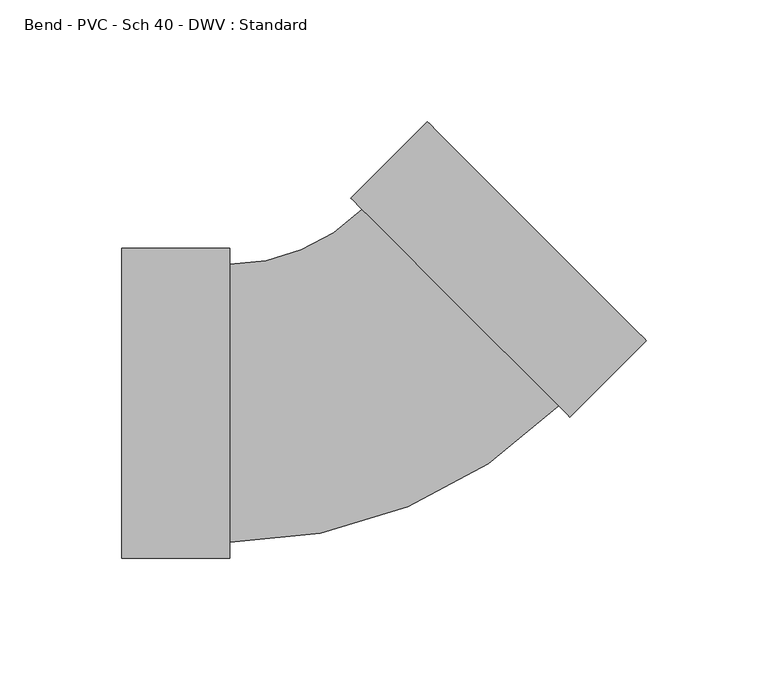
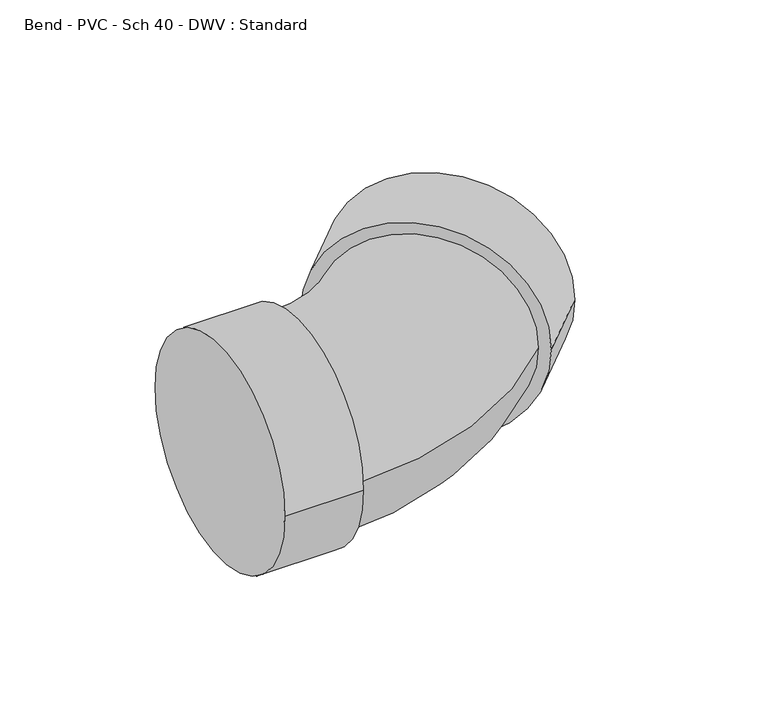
"""IFC4 building model written with IfcOpenShell, lengths in millimetres: pipe fitting geometry, Bend - PVC - Sch 40 - DWV : Standard."""

from ifc_helpers import new_model, si_unit, point, frame, origin, place, context, project, spatial, circle_curve, ellipse_curve, trimmed, source, transform, mapped, element, save
from ifc_brep_helpers import plane_surface, cylinder_surface, revolved_surface, advanced_brep


def bend_pvc_sch_40_dwv_standard_7d16cb2b(model_context):
    return source(origin(), model_context, "Body", "AdvancedBrep", [
        advanced_brep(
        [(-100.0252, -63.754, 0.0), (-100.0252, 63.754, 0.0), (-55.5752, -63.754, 0.0), (-55.5752, 63.754, 0.0), (-55.5752, -57.15, 0.0), (-55.5752, 57.15, 0.0), (-1.1099811, 79.7088031, 0.0), (79.7087034, -1.1171224, 0.0), (84.3782274, -5.7870648, 0.0), (-5.7795051, 84.3787455, 0.0), (115.8105317, 25.6424236, 0.0), (25.6527993, 115.8082339, 0.0)],
        [
            (0, 1, circle_curve(frame((-100.0252, 0.0, 0.0), z_axis=(-1.0, 0.0, 0.0), x_axis=(0.0, 1.0, 0.0)), 63.754)),
            (1, 0, circle_curve(frame((-100.0252, 0.0, 0.0), z_axis=(-1.0, 0.0, 0.0), x_axis=(0.0, 1.0, 0.0)), 63.754)),
            (2, 3, circle_curve(frame((-55.5752, 0.0, 0.0), z_axis=(1.0, 0.0, 0.0), x_axis=(0.0, 1.0, 0.0)), 63.754)),
            (3, 2, circle_curve(frame((-55.5752, 0.0, 0.0), z_axis=(1.0, 0.0, 0.0), x_axis=(0.0, 1.0, 0.0)), 63.754)),
            (4, 5, circle_curve(frame((-55.5752, 0.0, 0.0), z_axis=(-1.0, 0.0, 0.0), x_axis=(0.0, 1.0, 0.0)), 57.15)),
            (5, 4, circle_curve(frame((-55.5752, 0.0, 0.0), z_axis=(-1.0, 0.0, 0.0), x_axis=(0.0, 1.0, 0.0)), 57.15)),
            (0, 2),
            (3, 1),
            (6, 5, circle_curve(frame((-55.5752, 134.1789019, 0.0), z_axis=(0.0, 0.0, -1.0), x_axis=(0.0, -1.0, 0.0)), 77.0289019)),
            (4, 7, circle_curve(frame((-55.5752, 134.1789019, 0.0), z_axis=(0.0, 0.0, 1.0), x_axis=(0.0, -1.0, 0.0)), 191.3289019)),
            (7, 6, circle_curve(frame((39.2993611, 39.2958404, 0.0), z_axis=(-0.7071384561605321, -0.7070751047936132, 0.0), x_axis=(-0.7070751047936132, 0.7071384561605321, 0.0)), 57.15)),
            (6, 7, circle_curve(frame((39.2993611, 39.2958404, 0.0), z_axis=(-0.7071384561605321, -0.7070751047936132, 0.0), x_axis=(-0.7070751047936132, 0.7071384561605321, 0.0)), 57.15)),
            (8, 9, circle_curve(frame((39.2993611, 39.2958404, 0.0), z_axis=(-0.7071384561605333, -0.7070751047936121, 0.0), x_axis=(-0.7070751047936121, 0.7071384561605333, 0.0)), 63.754)),
            (9, 8, circle_curve(frame((39.2993611, 39.2958404, 0.0), z_axis=(-0.7071384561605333, -0.7070751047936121, 0.0), x_axis=(-0.7070751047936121, 0.7071384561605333, 0.0)), 63.754)),
            (10, 11, circle_curve(frame((70.7316655, 70.7253288, 0.0), z_axis=(0.7071384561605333, 0.7070751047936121, 0.0), x_axis=(-0.7070751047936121, 0.7071384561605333, 0.0)), 63.754)),
            (11, 10, circle_curve(frame((70.7316655, 70.7253288, 0.0), z_axis=(0.7071384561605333, 0.7070751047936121, 0.0), x_axis=(-0.7070751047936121, 0.7071384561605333, 0.0)), 63.754)),
            (8, 10),
            (11, 9),
        ],
        [
            plane_surface(frame((-100.0252, 0.0, 0.0), z_axis=(-1.0, 0.0, 0.0), x_axis=(0.0, 0.0, 1.0))),
            plane_surface(frame((-55.5752, 0.0, 0.0), z_axis=(1.0, 0.0, 0.0), x_axis=(0.0, 0.0, 1.0))),
            cylinder_surface(frame((-100.0252, 0.0, 0.0), z_axis=(-1.0, 0.0, 0.0), x_axis=(0.0, 1.0, 0.0)), 63.754),
            revolved_surface(trimmed(ellipse_curve(frame((-55.5752, 0.0, 0.0), z_axis=(-1.0, 0.0, 0.0), x_axis=(0.0, 1.0, 0.0)), 57.15, 57.15), [point((-55.5752, -57.15, 0.0))], [point((-55.5752, 57.15, 0.0))], True, "CARTESIAN"), (-55.5752, 134.1789019, 0.0), (0.0, 0.0, 1.0)),
            revolved_surface(trimmed(ellipse_curve(frame((-55.5752, 0.0, 0.0), z_axis=(-1.0, 0.0, 0.0), x_axis=(0.0, 1.0, 0.0)), 57.15, 57.15), [point((-55.5752, 57.15, 0.0))], [point((-55.5752, -57.15, 0.0))], True, "CARTESIAN"), (-55.5752, 134.1789019, 0.0), (0.0, 0.0, 1.0)),
            plane_surface(frame((39.2993611, 39.2958404, 0.0), z_axis=(-0.7071384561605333, -0.7070751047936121, 0.0), x_axis=(0.0, 0.0, 1.0))),
            plane_surface(frame((70.7316655, 70.7253288, 0.0), z_axis=(0.7071384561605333, 0.7070751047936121, 0.0), x_axis=(0.0, 0.0, 1.0))),
            cylinder_surface(frame((39.2993611, 39.2958404, 0.0), z_axis=(-0.7071384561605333, -0.7070751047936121, 0.0), x_axis=(-0.7070751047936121, 0.7071384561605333, 0.0)), 63.754),
        ],
        [
            (0, [[1, 2]]),
            (1, [[3, 4], [5, 6]]),
            (2, [[-1, 7, -4, 8]]),
            (2, [[-2, -8, -3, -7]]),
            (3, [[9, -5, 10, 11]]),
            (4, [[-9, 12, -10, -6]]),
            (5, [[13, 14], [-11, -12]]),
            (6, [[15, 16]]),
            (7, [[-13, 17, -16, 18]]),
            (7, [[-14, -18, -15, -17]]),
        ],
    ),
    ])


if __name__ == "__main__":
    model = new_model("IFC4")
    model_context = context("Model", 3, world=origin())
    ifc_project = project(units=[si_unit("LENGTHUNIT", "METRE", prefix="MILLI")], contexts=[model_context])
    site = spatial("IfcSite", under=ifc_project)
    building = spatial("IfcBuilding", under=site)
    placement = place(None, origin())
    bend_pvc_sch_40_dwv_standard_shape = bend_pvc_sch_40_dwv_standard_7d16cb2b(model_context)
    element("IfcPipeFitting", 1, ObjectType="Bend - PVC - Sch 40 - DWV : Standard", at=placement, inside=building, context=model_context, shape_type="MappedRepresentation", body=[
        mapped(bend_pvc_sch_40_dwv_standard_shape, transform((0.0, 0.0, 0.0), x_axis=(1.0, 0.0, 0.0), y_axis=(0.0, 1.0, 0.0), z_axis=(0.0, 0.0, 1.0))),
    ])
    save(model, "model.ifc")
